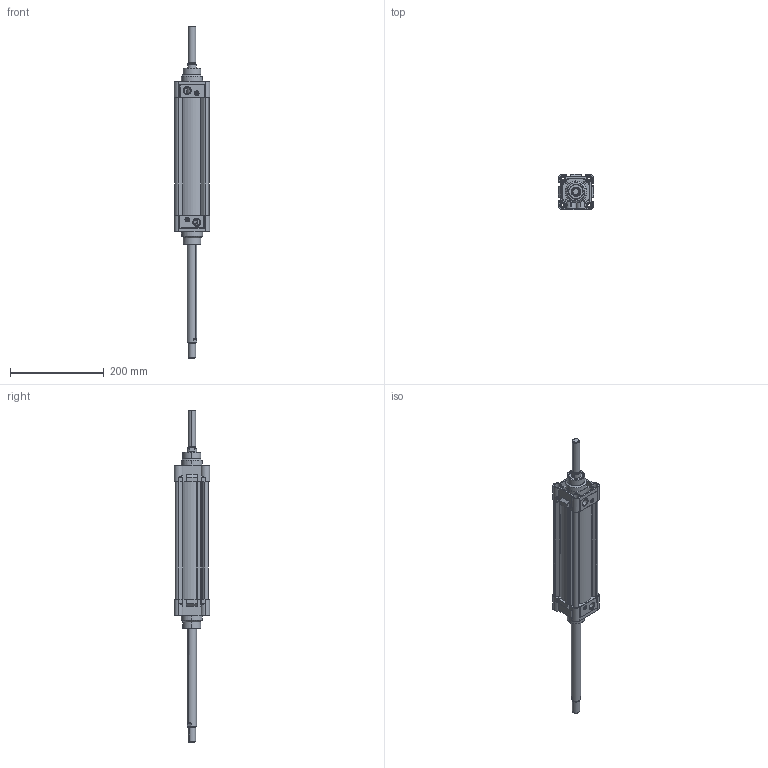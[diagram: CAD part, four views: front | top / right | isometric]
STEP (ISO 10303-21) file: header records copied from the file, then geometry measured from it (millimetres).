
FILE_DESCRIPTION (( 'STEP AP203' ), '1' );
FILE_NAME ('KDNT63X200CIFTMILLI-STROK AYARLI-CYLINDER.STEP', '2016-03-26T08:02:05', ( 'user' ), ( '' ), 'SwSTEP 2.0', 'SolidWorks 2013', '' );
FILE_SCHEMA (( 'CONFIG_CONTROL_DESIGN' ));
Length unit declared in the file: millimetre
Products named in the file (6): 烰 KAPAK  63; KDNT 63X200 BORU; ORTA PÝSTON 63 ÇÝFT MÝLLÝ; Piston Mili 63x200; SAPLAMALI M尳 STROK AYARLI 63x200; KDNT63X200CIFTMILLI-STROK AYARLI-CYLINDER
Assembly tree (6 placements, depth 2):
  KDNT63X200CIFTMILLI-STROK AYARLI-CYLINDER
    烰 KAPAK  63  x2
    KDNT 63X200 BORU
    ORTA PÝSTON 63 ÇÝFT MÝLLÝ
    Piston Mili 63x200
    SAPLAMALI M尳 STROK AYARLI 63x200
Bounding box: 75.8 x 76.06 x 707.3 mm (x, y, z)
Volume: 751543.4 mm3; surface area: 342037.6 mm2
Topology: 8 solids, 8 shells, 894 faces, 2287 edges, 1465 vertices
Faces by surface type: cylinder 430, plane 292, cone 96, bspline 68, torus 8
Entity records: 21274 total; most frequent: CARTESIAN_POINT 6914, ORIENTED_EDGE 2912, DIRECTION 2835, EDGE_CURVE 1456, AXIS2_PLACEMENT_3D 1095, VERTEX_POINT 937, EDGE_LOOP 653, VECTOR 645
